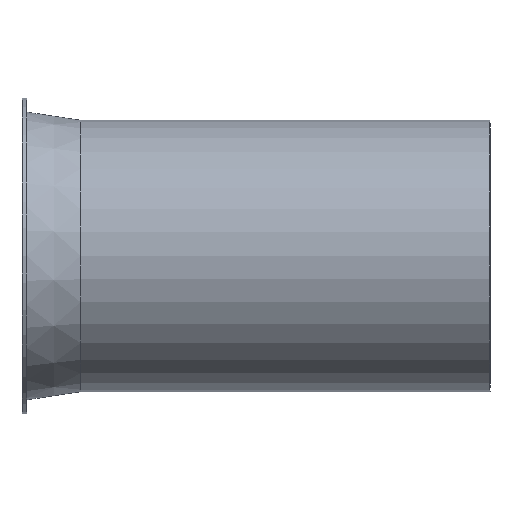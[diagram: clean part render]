
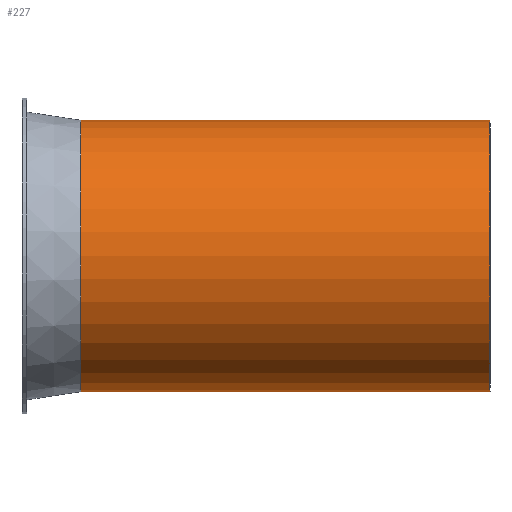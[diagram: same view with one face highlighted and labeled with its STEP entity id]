
A CAD part, top view. The second image highlights one B-rep face of the part: STEP entity #227.
In plain terms, the highlighted cylindrical face has radius 58 mm (diameter 116 mm), a full revolution.
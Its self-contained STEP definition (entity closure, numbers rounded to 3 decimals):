
#132=CARTESIAN_POINT('',(-2.081,46.334,0.0));
#133=VERTEX_POINT('',#132);
#134=CARTESIAN_POINT('',(-2.081,104.334,0.0));
#135=DIRECTION('',(-1.0,0.0,0.0));
#136=DIRECTION('',(0.0,-1.0,0.0));
#137=AXIS2_PLACEMENT_3D('',#134,#135,#136);
#138=CIRCLE('',#137,58.);
#139=EDGE_CURVE('',#133,#133,#138,.T.);
#201=CARTESIAN_POINT('',(172.919,46.334,0.0));
#202=VERTEX_POINT('',#201);
#203=CARTESIAN_POINT('',(172.919,104.334,0.0));
#204=DIRECTION('',(-1.0,0.0,0.0));
#205=DIRECTION('',(0.0,-1.0,0.0));
#206=AXIS2_PLACEMENT_3D('',#203,#204,#205);
#207=CIRCLE('',#206,58.);
#208=EDGE_CURVE('',#202,#202,#207,.T.);
#216=CARTESIAN_POINT('',(85.419,104.334,0.0));
#217=DIRECTION('',(-1.0,0.,0.0));
#218=DIRECTION('',(0.0,-1.0,0.0));
#219=AXIS2_PLACEMENT_3D('',#216,#217,#218);
#220=CYLINDRICAL_SURFACE('',#219,58.);
#221=ORIENTED_EDGE('',*,*,#139,.F.);
#222=EDGE_LOOP('',(#221));
#223=FACE_OUTER_BOUND('',#222,.T.);
#224=ORIENTED_EDGE('',*,*,#208,.T.);
#225=EDGE_LOOP('',(#224));
#226=FACE_BOUND('',#225,.T.);
#227=ADVANCED_FACE('',(#223,#226),#220,.T.);
